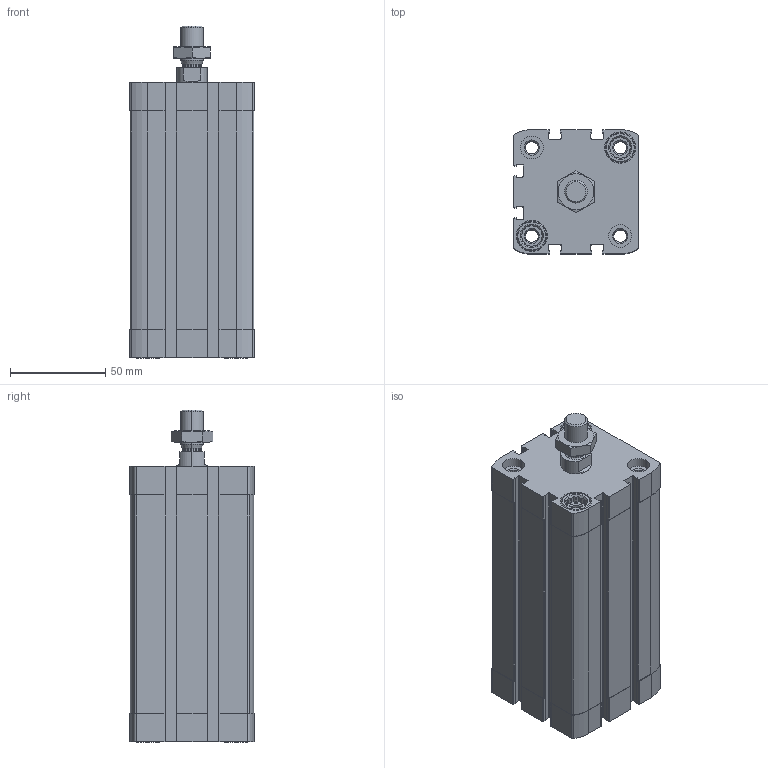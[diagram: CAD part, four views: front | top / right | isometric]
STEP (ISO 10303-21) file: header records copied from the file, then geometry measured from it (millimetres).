
FILE_DESCRIPTION (( 'STEP AP203' ), '1' );
FILE_NAME ('CCN50-100M.STEP', '2017-04-05T13:34:13', ( '' ), ( '' ), 'SwSTEP 2.0', 'SolidWorks 2016', '' );
FILE_SCHEMA (( 'CONFIG_CONTROL_DESIGN' ));
Length unit declared in the file: millimetre
Products named in the file (4): CCN-100---(Z); CCN-100_(KS); _DIN-439-B - M12x1.25(F); CCN50-100M
Assembly tree (3 placements, depth 2):
  CCN50-100M
    CCN-100---(Z)
    CCN-100_(KS)
    _DIN-439-B - M12x1.25(F)
Bounding box: 65.5 x 65.5 x 174.7 mm (x, y, z)
Volume: 385196.2 mm3; surface area: 107297.5 mm2
Topology: 3 solids, 3 shells, 491 faces, 1316 edges, 862 vertices
Faces by surface type: plane 227, cylinder 212, cone 48, bspline 4
Entity records: 16072 total; most frequent: CARTESIAN_POINT 3135, DIRECTION 2672, ORIENTED_EDGE 2632, EDGE_CURVE 1316, AXIS2_PLACEMENT_3D 977, VERTEX_POINT 862, VECTOR 718, LINE 718
